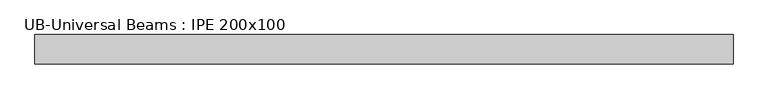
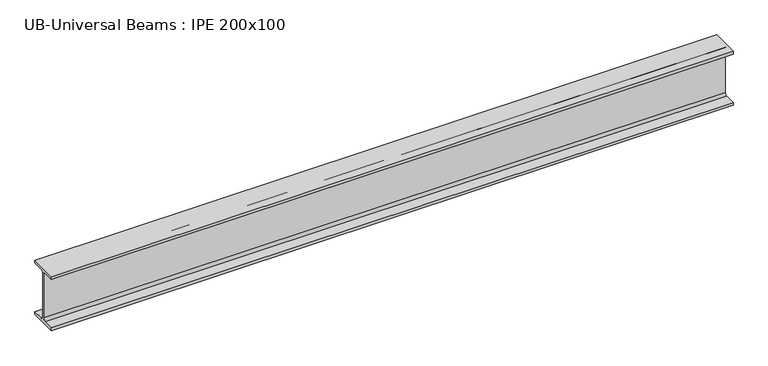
"""IFC4 building model written with IfcOpenShell, lengths in millimetres: beam geometry, UB-Universal Beams : IPE 200x100."""

import ifcopenshell
import ifcopenshell.guid

model = None  # the IFC model being written
_history = None  # IfcOwnerHistory: only IFC2X3 demands one
_inside = {}  # id of a spatial element -> (the spatial element, [elements in it])
_under = {}  # id of a project, library or spatial element -> (it, [spatial elements below it])
_declared = {}  # id of a project -> (the project, [libraries it declares])
_typed = {}  # id of a type object -> (the type object, [elements of that type])
_made_of = {}  # id of a material, layer set ... -> (it, [elements and type objects made of it])


def new_model(schema):
    """Start an empty IFC model of exactly this schema.

    Asked for "IFC4X3", IfcOpenShell would pick the latest addendum, in which some entities
    have other attributes; the version numbers below select the first issue.
    IFC2X3 requires an IfcOwnerHistory on every rooted entity: one is made here for all.
    """
    global model, _history
    if schema == "IFC4X3":
        model = ifcopenshell.file(schema_version=(4, 3, 0, 0))
    else:
        model = ifcopenshell.file(schema=schema)
    _inside.clear()
    _under.clear()
    _declared.clear()
    _typed.clear()
    _made_of.clear()
    _history = None
    if model.schema == "IFC2X3":
        org = make("IfcOrganization", Name="unknown")
        user = make(
            "IfcPersonAndOrganization",
            ThePerson=make("IfcPerson", FamilyName="unknown"),
            TheOrganization=org,
        )
        app = make(
            "IfcApplication",
            ApplicationDeveloper=org,
            Version="unknown",
            ApplicationFullName="unknown",
            ApplicationIdentifier="unknown",
        )
        _history = make(
            "IfcOwnerHistory",
            OwningUser=user,
            OwningApplication=app,
            ChangeAction="ADDED",
            CreationDate=0,
        )
    return model


def make(cls, **values):
    """One entity of the class cls with the attributes given. An attribute that is None is left unset."""
    return model.create_entity(
        cls, **{name: value for name, value in values.items() if value is not None}
    )


def rooted(cls, **values):
    """An entity with a GlobalId (a new one), such as an element, a storey or a relation."""
    return make(cls, GlobalId=ifcopenshell.guid.new(), OwnerHistory=_history, **values)


def si_unit(unit_type, name, prefix=None):
    """IfcSIUnit, for example si_unit("LENGTHUNIT", "METRE", prefix="MILLI")."""
    return make("IfcSIUnit", UnitType=unit_type, Prefix=prefix, Name=name)


def assignment(units):
    """IfcUnitAssignment: the units of a project."""
    return None if units is None else make("IfcUnitAssignment", Units=units)


def point(xyz):
    """IfcCartesianPoint."""
    return None if xyz is None else make("IfcCartesianPoint", Coordinates=xyz)


def direction(xyz):
    """IfcDirection."""
    return None if xyz is None else make("IfcDirection", DirectionRatios=xyz)


def frame(location, z_axis=None, x_axis=None):
    """IfcAxis2Placement3D, a coordinate frame: its origin and axes. An axis left out is left unset."""
    return make(
        "IfcAxis2Placement3D",
        Location=point(location),
        Axis=direction(z_axis),
        RefDirection=direction(x_axis),
    )


def frame_2d(location, x_axis=None):
    """IfcAxis2Placement2D, a coordinate frame in the plane: its origin and x axis."""
    return make(
        "IfcAxis2Placement2D", Location=point(location), RefDirection=direction(x_axis)
    )


def origin():
    """The frame at (0, 0, 0) with its axes left unset."""
    return frame((0.0, 0.0, 0.0))


def place(relative_to, where):
    """IfcLocalPlacement: puts the frame where relative to a parent placement (None: the world)."""
    return make(
        "IfcLocalPlacement", PlacementRelTo=relative_to, RelativePlacement=where
    )


def context(
    kind, dimensions, precision=None, world=None, true_north=None, identifier=None
):
    """IfcGeometricRepresentationContext, for example the 3D "Model" context."""
    return make(
        "IfcGeometricRepresentationContext",
        ContextIdentifier=identifier,
        ContextType=kind,
        CoordinateSpaceDimension=dimensions,
        Precision=precision,
        WorldCoordinateSystem=world,
        TrueNorth=true_north,
    )


def project(units=None, contexts=None):
    """IfcProject with its units and contexts."""
    return rooted(
        "IfcProject",
        Name="project",
        RepresentationContexts=contexts,
        UnitsInContext=assignment(units),
    )


def spatial(cls, under=None, at=None, **own):
    """A site, building, storey or space (cls), placed at a placement, below another one or the project."""
    s = rooted(cls, ObjectPlacement=at, **own)
    if under is not None:
        _under.setdefault(under.id(), (under, []))[1].append(s)
    return s


def polyline(points):
    """IfcPolyline through the points."""
    return make("IfcPolyline", Points=[point(p) for p in points])


def circle_curve(where, radius):
    """IfcCircle in the frame where."""
    return make("IfcCircle", Position=where, Radius=radius)


def trimmed(basis, trim1, trim2, sense, master):
    """IfcTrimmedCurve: the piece of a basis curve between two trims."""
    return make(
        "IfcTrimmedCurve",
        BasisCurve=basis,
        Trim1=trim1,
        Trim2=trim2,
        SenseAgreement=sense,
        MasterRepresentation=master,
    )


def segment(curve, same_sense, transition):
    """IfcCompositeCurveSegment."""
    return make(
        "IfcCompositeCurveSegment",
        Transition=transition,
        SameSense=same_sense,
        ParentCurve=curve,
    )


def composite_curve(segments, self_intersect=None):
    """IfcCompositeCurve: segments joined end to end."""
    return make("IfcCompositeCurve", Segments=segments, SelfIntersect=self_intersect)


def outline(outer, holes=None, kind="AREA"):
    """IfcArbitraryClosedProfileDef: a profile drawn as a closed curve; with holes, ...WithVoids."""
    if holes is None:
        return make("IfcArbitraryClosedProfileDef", ProfileType=kind, OuterCurve=outer)
    return make(
        "IfcArbitraryProfileDefWithVoids",
        ProfileType=kind,
        OuterCurve=outer,
        InnerCurves=holes,
    )


def extrude(swept, where, along, depth):
    """IfcExtrudedAreaSolid: the profile swept, set in the frame where, extruded along a direction by depth."""
    return make(
        "IfcExtrudedAreaSolid",
        SweptArea=swept,
        Position=where,
        ExtrudedDirection=direction(along),
        Depth=depth,
    )


def shape(context_of_items, identifier, shape_type, items):
    """IfcShapeRepresentation: the items that make up one representation, for example the "Body"."""
    return make(
        "IfcShapeRepresentation",
        ContextOfItems=context_of_items,
        RepresentationIdentifier=identifier,
        RepresentationType=shape_type,
        Items=items,
    )


def source(mapping_origin, context_of_items, identifier, shape_type, items):
    """IfcRepresentationMap: a shape defined once, which mapped items show again and again."""
    return make(
        "IfcRepresentationMap",
        MappingOrigin=mapping_origin,
        MappedRepresentation=shape(context_of_items, identifier, shape_type, items),
    )


def transform(
    local_origin,
    x_axis=None,
    y_axis=None,
    z_axis=None,
    scale=None,
    scale2=None,
    scale3=None,
    uniform=True,
):
    """IfcCartesianTransformationOperator3D, or its non-uniform kind. x_axis, y_axis, z_axis: its Axis1, 2, 3."""
    if uniform:
        return make(
            "IfcCartesianTransformationOperator3D",
            Axis1=direction(x_axis),
            Axis2=direction(y_axis),
            LocalOrigin=point(local_origin),
            Scale=scale,
            Axis3=direction(z_axis),
        )
    return make(
        "IfcCartesianTransformationOperator3DnonUniform",
        Axis1=direction(x_axis),
        Axis2=direction(y_axis),
        LocalOrigin=point(local_origin),
        Scale=scale,
        Axis3=direction(z_axis),
        Scale2=scale2,
        Scale3=scale3,
    )


def mapped(mapping_source, mapping_target):
    """IfcMappedItem: shows the shape of a source again, moved by a transform."""
    return make(
        "IfcMappedItem", MappingSource=mapping_source, MappingTarget=mapping_target
    )


def made_of(thing, what):
    """Note that an element or type object is made of a material, layer set ...; save() writes the relation."""
    if what is not None:
        _made_of.setdefault(what.id(), (what, []))[1].append(thing)
    return thing


def element(
    cls,
    number,
    at=None,
    inside=None,
    cuts=None,
    type_object=None,
    material=None,
    context=None,
    identifier="Body",
    shape_type=None,
    held_by="IfcProductDefinitionShape",
    body=None,
    shapes=None,
    **own,
):
    """One element of the class cls, such as IfcWall. Its Tag is "e" and its number.

    at: its placement. inside: the storey or other place that contains it. cuts: it is an
    opening in that element (IfcRelVoidsElement). A single representation is given by context,
    identifier, shape_type and body (its items); several are given by shapes. held_by: the class
    of the entity that holds the representations. save() writes the other relations.
    """
    e = rooted(cls, Tag="e%d" % number, ObjectPlacement=at, **own)
    if body is not None:
        shapes = [shape(context, identifier, shape_type, body)]
    if shapes is not None:
        e.Representation = make(held_by, Representations=shapes)
    if inside is not None:
        _inside.setdefault(inside.id(), (inside, []))[1].append(e)
    if cuts is not None:
        rooted(
            "IfcRelVoidsElement", RelatingBuildingElement=cuts, RelatedOpeningElement=e
        )
    if type_object is not None:
        _typed.setdefault(type_object.id(), (type_object, []))[1].append(e)
    return made_of(e, material)


def aggregate(whole, parts):
    """IfcRelAggregates: a whole, such as a stair, and the parts it consists of."""
    return rooted("IfcRelAggregates", RelatingObject=whole, RelatedObjects=parts)


def save(model, path):
    """Write the relations noted so far, then the file.

    IfcRelAggregates (storeys below a building ...), IfcRelContainedInSpatialStructure (elements
    in a storey), IfcRelDefinesByType, IfcRelAssociatesMaterial and IfcRelDeclares: one each for
    every whole, place, type object, material and project.
    """
    for whole, parts in _under.values():
        aggregate(whole, parts)
    for where, things in _inside.values():
        rooted(
            "IfcRelContainedInSpatialStructure",
            RelatedElements=things,
            RelatingStructure=where,
        )
    for kind, things in _typed.values():
        rooted("IfcRelDefinesByType", RelatedObjects=things, RelatingType=kind)
    for what, things in _made_of.values():
        rooted("IfcRelAssociatesMaterial", RelatedObjects=things, RelatingMaterial=what)
    for by, libraries in _declared.values():
        rooted("IfcRelDeclares", RelatingContext=by, RelatedDefinitions=libraries)
    model.write(path)


def ub_universal_beams_ipe_200x100_5514cdf4(model_context):
    return source(origin(), model_context, "Body", "SweptSolid", [
        extrude(outline(composite_curve([segment(polyline([(-50.0, -89.8), (-11.9, -89.8)]), True, "CONTINUOUS"), segment(trimmed(circle_curve(frame_2d((-11.9, -80.9)), 8.9), [point((-11.9, -89.8))], [point((-3.0, -80.9))], True, "CARTESIAN"), True, "CONTINUOUS"), segment(polyline([(-3.0, -80.9), (-3.0, 80.9)]), True, "CONTINUOUS"), segment(trimmed(circle_curve(frame_2d((-11.9, 80.9)), 8.9), [point((-3.0, 80.9))], [point((-11.9, 89.8))], True, "CARTESIAN"), True, "CONTINUOUS"), segment(polyline([(-11.9, 89.8), (-50.0, 89.8), (-50.0, 100.0), (50.0, 100.0), (50.0, 89.8), (11.9, 89.8)]), True, "CONTINUOUS"), segment(trimmed(circle_curve(frame_2d((11.9, 80.9)), 8.9), [point((11.9, 89.8))], [point((3.0, 80.9))], True, "CARTESIAN"), True, "CONTINUOUS"), segment(polyline([(3.0, 80.9), (3.0, -80.9)]), True, "CONTINUOUS"), segment(trimmed(circle_curve(frame_2d((11.9, -80.9)), 8.9), [point((3.0, -80.9))], [point((11.9, -89.8))], True, "CARTESIAN"), True, "CONTINUOUS"), segment(polyline([(11.9, -89.8), (50.0, -89.8), (50.0, -100.0), (-50.0, -100.0), (-50.0, -89.8)]), True, "CONTINUOUS")], self_intersect=False)), frame((-1169.2, 0.0, 0.0), z_axis=(1.0, 0.0, 0.0), x_axis=(0.0, 1.0, 0.0)), (0.0, 0.0, 1.0), 2381.1),
    ])


if __name__ == "__main__":
    model = new_model("IFC4")
    model_context = context("Model", 3, world=origin())
    ifc_project = project(units=[si_unit("LENGTHUNIT", "METRE", prefix="MILLI")], contexts=[model_context])
    site = spatial("IfcSite", under=ifc_project)
    building = spatial("IfcBuilding", under=site)
    placement = place(None, origin())
    ub_universal_beams_ipe_200x100_shape = ub_universal_beams_ipe_200x100_5514cdf4(model_context)
    element("IfcBeam", 1, ObjectType="UB-Universal Beams : IPE 200x100", at=placement, inside=building, context=model_context, shape_type="MappedRepresentation", body=[
        mapped(ub_universal_beams_ipe_200x100_shape, transform((0.0, 0.0, 0.0), x_axis=(1.0, 0.0, 0.0), y_axis=(0.0, 1.0, 0.0), z_axis=(0.0, 0.0, 1.0))),
    ])
    save(model, "model.ifc")
